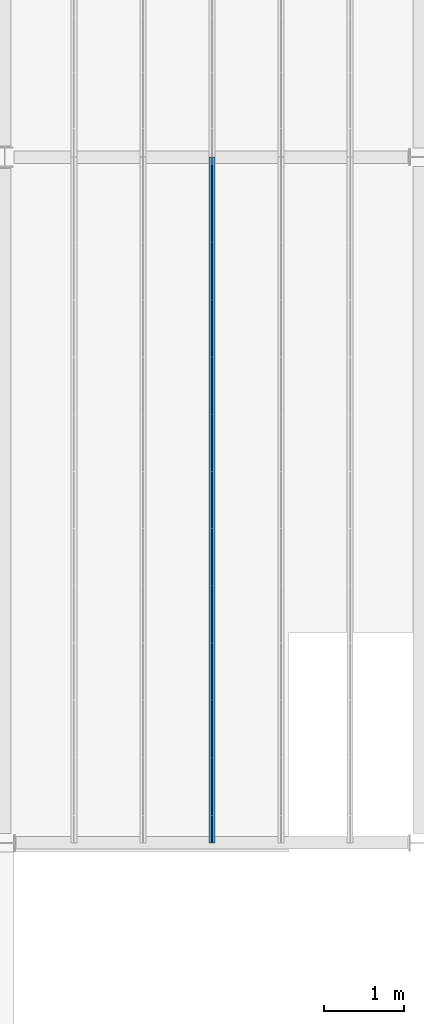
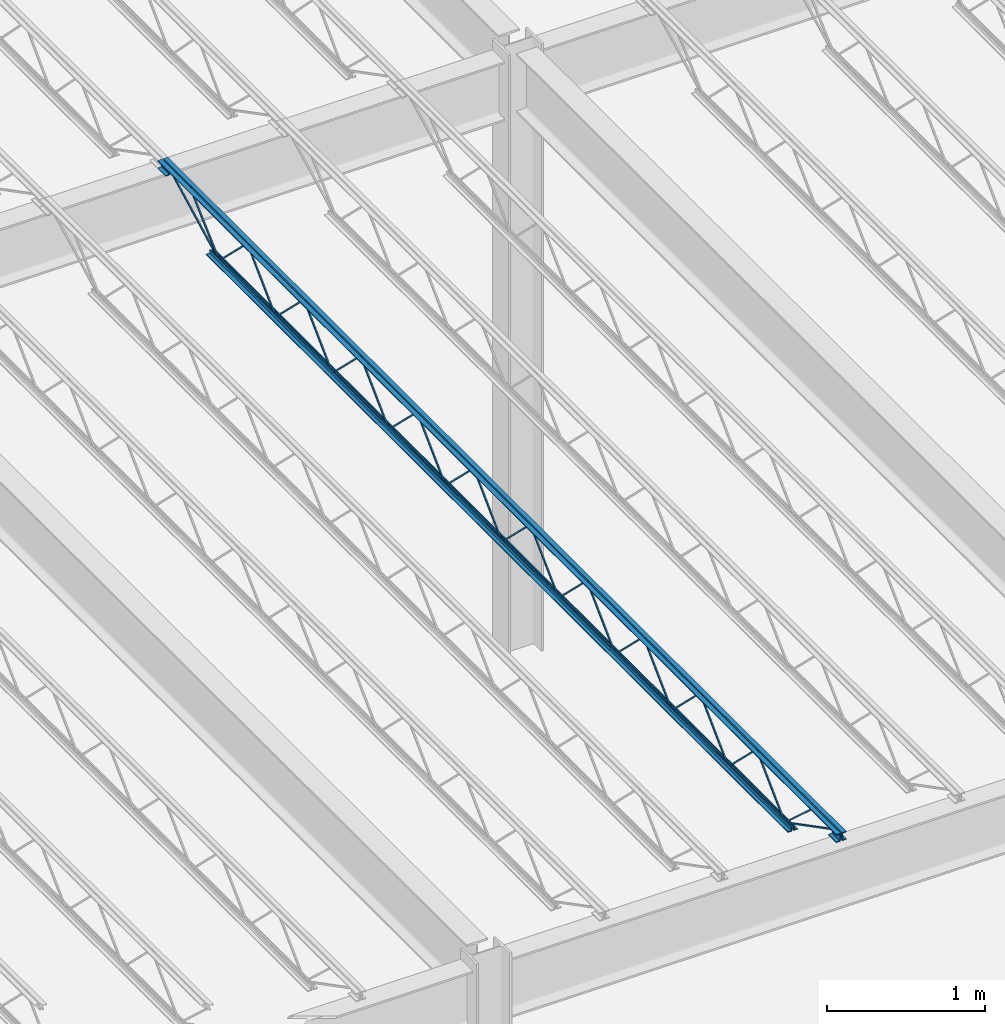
# One storey, part 48 of 119: 1 beam.
"""IFC2X3 building model written with IfcOpenShell, lengths in metres."""

import ifcopenshell
import ifcopenshell.guid

model = None  # the IFC model being written
_history = None  # IfcOwnerHistory: only IFC2X3 demands one
_inside = {}  # id of a spatial element -> (the spatial element, [elements in it])
_under = {}  # id of a project, library or spatial element -> (it, [spatial elements below it])
_declared = {}  # id of a project -> (the project, [libraries it declares])
_typed = {}  # id of a type object -> (the type object, [elements of that type])
_made_of = {}  # id of a material, layer set ... -> (it, [elements and type objects made of it])


def new_model(schema):
    """Start an empty IFC model of exactly this schema.

    Asked for "IFC4X3", IfcOpenShell would pick the latest addendum, in which some entities
    have other attributes; the version numbers below select the first issue.
    IFC2X3 requires an IfcOwnerHistory on every rooted entity: one is made here for all.
    """
    global model, _history
    if schema == "IFC4X3":
        model = ifcopenshell.file(schema_version=(4, 3, 0, 0))
    else:
        model = ifcopenshell.file(schema=schema)
    _inside.clear()
    _under.clear()
    _declared.clear()
    _typed.clear()
    _made_of.clear()
    _history = None
    if model.schema == "IFC2X3":
        org = make("IfcOrganization", Name="unknown")
        user = make(
            "IfcPersonAndOrganization",
            ThePerson=make("IfcPerson", FamilyName="unknown"),
            TheOrganization=org,
        )
        app = make(
            "IfcApplication",
            ApplicationDeveloper=org,
            Version="unknown",
            ApplicationFullName="unknown",
            ApplicationIdentifier="unknown",
        )
        _history = make(
            "IfcOwnerHistory",
            OwningUser=user,
            OwningApplication=app,
            ChangeAction="ADDED",
            CreationDate=0,
        )
    return model


def make(cls, **values):
    """One entity of the class cls with the attributes given. An attribute that is None is left unset."""
    return model.create_entity(
        cls, **{name: value for name, value in values.items() if value is not None}
    )


def entity(cls, *values):
    """Any entity or typed value of the class cls, its attributes in the order of the schema. None: left unset."""
    e = model.create_entity(cls)
    for i, value in enumerate(values):
        if value is not None:
            e[i] = value
    return e


def rooted(cls, **values):
    """An entity with a GlobalId (a new one), such as an element, a storey or a relation."""
    return make(cls, GlobalId=ifcopenshell.guid.new(), OwnerHistory=_history, **values)


def si_unit(unit_type, name, prefix=None):
    """IfcSIUnit, for example si_unit("LENGTHUNIT", "METRE", prefix="MILLI")."""
    return make("IfcSIUnit", UnitType=unit_type, Prefix=prefix, Name=name)


def converted_unit(unit_type, name, factor, base, dimensions=None, offset=None):
    """IfcConversionBasedUnit, such as the inch: factor (a typed value) times the base unit."""
    return make(
        "IfcConversionBasedUnit"
        if offset is None
        else "IfcConversionBasedUnitWithOffset",
        ConversionOffset=offset,
        Dimensions=None
        if dimensions is None
        else entity("IfcDimensionalExponents", *dimensions),
        UnitType=unit_type,
        Name=name,
        ConversionFactor=make(
            "IfcMeasureWithUnit", ValueComponent=factor, UnitComponent=base
        ),
    )


def assignment(units):
    """IfcUnitAssignment: the units of a project."""
    return None if units is None else make("IfcUnitAssignment", Units=units)


def point(xyz):
    """IfcCartesianPoint."""
    return None if xyz is None else make("IfcCartesianPoint", Coordinates=xyz)


def direction(xyz):
    """IfcDirection."""
    return None if xyz is None else make("IfcDirection", DirectionRatios=xyz)


def frame(location, z_axis=None, x_axis=None):
    """IfcAxis2Placement3D, a coordinate frame: its origin and axes. An axis left out is left unset."""
    return make(
        "IfcAxis2Placement3D",
        Location=point(location),
        Axis=direction(z_axis),
        RefDirection=direction(x_axis),
    )


def origin():
    """The frame at (0, 0, 0) with its axes left unset."""
    return frame((0.0, 0.0, 0.0))


def place(relative_to, where):
    """IfcLocalPlacement: puts the frame where relative to a parent placement (None: the world)."""
    return make(
        "IfcLocalPlacement", PlacementRelTo=relative_to, RelativePlacement=where
    )


def context(
    kind, dimensions, precision=None, world=None, true_north=None, identifier=None
):
    """IfcGeometricRepresentationContext, for example the 3D "Model" context."""
    return make(
        "IfcGeometricRepresentationContext",
        ContextIdentifier=identifier,
        ContextType=kind,
        CoordinateSpaceDimension=dimensions,
        Precision=precision,
        WorldCoordinateSystem=world,
        TrueNorth=true_north,
    )


def project(units=None, contexts=None):
    """IfcProject with its units and contexts."""
    return rooted(
        "IfcProject",
        Name="project",
        RepresentationContexts=contexts,
        UnitsInContext=assignment(units),
    )


def spatial(cls, under=None, at=None, **own):
    """A site, building, storey or space (cls), placed at a placement, below another one or the project."""
    s = rooted(cls, ObjectPlacement=at, **own)
    if under is not None:
        _under.setdefault(under.id(), (under, []))[1].append(s)
    return s


def faces_of(points, faces, orient=None, outer=None):
    """IfcFace entities. A face is a list of loops; a loop is a list of indices into points, from 0.

    orient and outer hold one flag for each loop. By default every Orientation is true, the
    first loop of a face is its IfcFaceOuterBound and the others are IfcFaceBound.
    """
    made = []
    for i, loops in enumerate(faces):
        bounds = []
        for j, loop in enumerate(loops):
            is_outer = j == 0 if outer is None else outer[i][j]
            bounds.append(
                make(
                    "IfcFaceOuterBound" if is_outer else "IfcFaceBound",
                    Bound=make("IfcPolyLoop", Polygon=[points[k] for k in loop]),
                    Orientation=True if orient is None else orient[i][j],
                )
            )
        made.append(make("IfcFace", Bounds=bounds))
    return made


def face_set(faces, orient=None, outer=None):
    """The faces of one IfcConnectedFaceSet. surface_model builds it on its shared points."""
    return ("IfcConnectedFaceSet", faces, orient, outer)


def surface_model(cls, points, shells):
    """IfcFaceBasedSurfaceModel or IfcShellBasedSurfaceModel (cls): surfaces that need not close."""
    shared = [point(p) for p in points]
    made = [make(c, CfsFaces=faces_of(shared, fs, o, b)) for c, fs, o, b in shells]
    if cls == "IfcFaceBasedSurfaceModel":
        return make(cls, FbsmFaces=made)
    return make(cls, SbsmBoundary=made)


def shape(context_of_items, identifier, shape_type, items):
    """IfcShapeRepresentation: the items that make up one representation, for example the "Body"."""
    return make(
        "IfcShapeRepresentation",
        ContextOfItems=context_of_items,
        RepresentationIdentifier=identifier,
        RepresentationType=shape_type,
        Items=items,
    )


def made_of(thing, what):
    """Note that an element or type object is made of a material, layer set ...; save() writes the relation."""
    if what is not None:
        _made_of.setdefault(what.id(), (what, []))[1].append(thing)
    return thing


def element(
    cls,
    number,
    at=None,
    inside=None,
    cuts=None,
    type_object=None,
    material=None,
    context=None,
    identifier="Body",
    shape_type=None,
    held_by="IfcProductDefinitionShape",
    body=None,
    shapes=None,
    **own,
):
    """One element of the class cls, such as IfcWall. Its Tag is "e" and its number.

    at: its placement. inside: the storey or other place that contains it. cuts: it is an
    opening in that element (IfcRelVoidsElement). A single representation is given by context,
    identifier, shape_type and body (its items); several are given by shapes. held_by: the class
    of the entity that holds the representations. save() writes the other relations.
    """
    e = rooted(cls, Tag="e%d" % number, ObjectPlacement=at, **own)
    if body is not None:
        shapes = [shape(context, identifier, shape_type, body)]
    if shapes is not None:
        e.Representation = make(held_by, Representations=shapes)
    if inside is not None:
        _inside.setdefault(inside.id(), (inside, []))[1].append(e)
    if cuts is not None:
        rooted(
            "IfcRelVoidsElement", RelatingBuildingElement=cuts, RelatedOpeningElement=e
        )
    if type_object is not None:
        _typed.setdefault(type_object.id(), (type_object, []))[1].append(e)
    return made_of(e, material)


def aggregate(whole, parts):
    """IfcRelAggregates: a whole, such as a stair, and the parts it consists of."""
    return rooted("IfcRelAggregates", RelatingObject=whole, RelatedObjects=parts)


def save(model, path):
    """Write the relations noted so far, then the file.

    IfcRelAggregates (storeys below a building ...), IfcRelContainedInSpatialStructure (elements
    in a storey), IfcRelDefinesByType, IfcRelAssociatesMaterial and IfcRelDeclares: one each for
    every whole, place, type object, material and project.
    """
    for whole, parts in _under.values():
        aggregate(whole, parts)
    for where, things in _inside.values():
        rooted(
            "IfcRelContainedInSpatialStructure",
            RelatedElements=things,
            RelatingStructure=where,
        )
    for kind, things in _typed.values():
        rooted("IfcRelDefinesByType", RelatedObjects=things, RelatingType=kind)
    for what, things in _made_of.values():
        rooted("IfcRelAssociatesMaterial", RelatedObjects=things, RelatingMaterial=what)
    for by, libraries in _declared.values():
        rooted("IfcRelDeclares", RelatingContext=by, RelatedDefinitions=libraries)
    model.write(path)


model = new_model("IFC2X3")

# Units and contexts
model_context = context("Model", 3, precision=1e-09, world=origin())
plan_context = context("Plan", 3, precision=1e-09, world=origin())
ifc_project = project(units=[si_unit("LENGTHUNIT", "METRE"), si_unit("AREAUNIT", "SQUARE_METRE"), si_unit("VOLUMEUNIT", "CUBIC_METRE"), converted_unit("PLANEANGLEUNIT", "DEGREE", entity("IfcRatioMeasure", 0.01745329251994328), si_unit("PLANEANGLEUNIT", "RADIAN"), dimensions=[0, 0, 0, 0, 0, 0, 0]), si_unit("TIMEUNIT", "SECOND")], contexts=[model_context, plan_context])

# Site, building, storey
site_placement = place(None, origin())
site = spatial("IfcSite", under=ifc_project, at=site_placement, Name="Default", CompositionType="ELEMENT")
building_placement = place(site_placement, origin())
building = spatial("IfcBuilding", under=site, at=building_placement, CompositionType="ELEMENT")
storey_placement = place(building_placement, frame((0.0, 0.0, 4.570000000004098)))
storey = spatial("IfcBuildingStorey", under=building, at=storey_placement, Name="Second Floor", CompositionType="ELEMENT", Elevation=4.570000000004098)

# Beam
beam_placement = place(storey_placement, frame((-17.50673750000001, 10.03999999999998, 4.323999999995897)))
element("IfcBeam", 1, at=beam_placement, inside=storey, Name="M_K-Series Bar Joist-Rod Web:14K1:14K1", ObjectType="M_K-Series Bar Joist-Rod Web:14K1", context=model_context, shape_type="SurfaceModel", body=[
    surface_model("IfcFaceBasedSurfaceModel", [(0.04150000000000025, 6.428799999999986, 0.01110000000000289), (0.03200000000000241, 6.428799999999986, 0.01110000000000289), (0.03200000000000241, 6.428799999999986, 0.001600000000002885), (0.04150000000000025, 6.428799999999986, 0.001600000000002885), (0.03200000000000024, 6.430038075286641, 0.01110000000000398), (0.04150000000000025, 6.430038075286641, 0.01110000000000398), (0.0320000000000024, 6.433911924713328, 0.001600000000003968), (0.03200000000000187, 6.784861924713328, 0.3449000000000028), (0.03200000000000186, 6.78733807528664, 0.3449000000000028), (0.03200000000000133, 7.138288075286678, 0.001600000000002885), (0.03200000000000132, 7.143399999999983, 0.001600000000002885), (0.03200000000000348, 7.143399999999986, 0.01110000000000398), (0.03200000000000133, 7.142161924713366, 0.01110000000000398), (0.03200000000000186, 6.79121192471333, 0.3544000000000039), (0.03200000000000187, 6.780988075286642, 0.3544000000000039), (0.0415000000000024, 6.433911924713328, 0.001600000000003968), (0.0414999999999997, 6.784861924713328, 0.3449000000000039), (0.0414999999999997, 6.787338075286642, 0.3449000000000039), (0.04149999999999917, 7.138288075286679, 0.001600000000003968), (0.04149999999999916, 7.143399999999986, 0.001600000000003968), (0.04149999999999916, 7.143399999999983, 0.01110000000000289), (0.04149999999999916, 7.142161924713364, 0.01110000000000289), (0.0414999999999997, 6.791211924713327, 0.3544000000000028), (0.04149999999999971, 6.780988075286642, 0.3544000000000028), (0.04149999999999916, 5.714199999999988, 0.01110000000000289), (0.03200000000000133, 5.714199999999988, 0.01110000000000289), (0.03200000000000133, 5.714199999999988, 0.001600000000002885), (0.04149999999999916, 5.714199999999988, 0.001600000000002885), (0.03199999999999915, 5.715438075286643, 0.01110000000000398), (0.04149999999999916, 5.715438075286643, 0.01110000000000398), (0.03200000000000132, 5.71931192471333, 0.001600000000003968), (0.03200000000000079, 6.07026192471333, 0.3449000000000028), (0.03200000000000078, 6.072738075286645, 0.3449000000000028), (0.03200000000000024, 6.423688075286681, 0.001600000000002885), (0.03200000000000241, 6.428799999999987, 0.001600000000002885), (0.03200000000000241, 6.428799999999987, 0.01110000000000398), (0.03200000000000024, 6.427561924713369, 0.01110000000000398), (0.03200000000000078, 6.076611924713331, 0.3544000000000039), (0.03200000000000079, 6.066388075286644, 0.3544000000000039), (0.04150000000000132, 5.71931192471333, 0.001600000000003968), (0.04149999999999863, 6.07026192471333, 0.3449000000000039), (0.04149999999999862, 6.072738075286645, 0.3449000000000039), (0.04149999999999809, 6.423688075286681, 0.001600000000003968), (0.04149999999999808, 6.428799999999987, 0.001600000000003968), (0.04150000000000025, 6.428799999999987, 0.01110000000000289), (0.04150000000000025, 6.427561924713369, 0.01110000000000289), (0.04149999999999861, 6.076611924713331, 0.3544000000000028), (0.04149999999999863, 6.066388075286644, 0.3544000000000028), (0.04150000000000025, 4.999599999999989, 0.01110000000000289), (0.03200000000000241, 4.999599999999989, 0.01110000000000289), (0.03200000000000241, 4.999599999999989, 0.001600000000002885), (0.04150000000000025, 4.999599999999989, 0.001600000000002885), (0.03200000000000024, 5.000838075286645, 0.01110000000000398), (0.04150000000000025, 5.000838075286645, 0.01110000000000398), (0.0320000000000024, 5.004711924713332, 0.001600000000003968), (0.03200000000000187, 5.355661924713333, 0.3449000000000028), (0.03200000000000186, 5.358138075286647, 0.3449000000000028), (0.03200000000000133, 5.709088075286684, 0.001600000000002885), (0.03200000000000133, 5.714199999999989, 0.001600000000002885), (0.03200000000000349, 5.714199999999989, 0.01110000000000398), (0.03200000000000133, 5.712961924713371, 0.01110000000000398), (0.03200000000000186, 5.362011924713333, 0.3544000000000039), (0.03200000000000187, 5.351788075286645, 0.3544000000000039), (0.04150000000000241, 5.004711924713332, 0.001600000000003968), (0.04149999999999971, 5.355661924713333, 0.3449000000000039), (0.0414999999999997, 5.358138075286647, 0.3449000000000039), (0.04149999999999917, 5.709088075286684, 0.001600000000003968), (0.04149999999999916, 5.714199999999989, 0.001600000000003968), (0.04149999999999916, 5.714199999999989, 0.01110000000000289), (0.04149999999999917, 5.712961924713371, 0.01110000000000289), (0.0414999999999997, 5.362011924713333, 0.3544000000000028), (0.04149999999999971, 5.351788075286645, 0.3544000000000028), (0.04149999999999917, 4.284999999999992, 0.01110000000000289), (0.03200000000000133, 4.284999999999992, 0.01110000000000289), (0.03200000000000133, 4.284999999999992, 0.001600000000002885), (0.04149999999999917, 4.284999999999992, 0.001600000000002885), (0.03199999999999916, 4.286238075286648, 0.01110000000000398), (0.04149999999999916, 4.286238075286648, 0.01110000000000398), (0.03200000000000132, 4.290111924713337, 0.001600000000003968), (0.03200000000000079, 4.641061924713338, 0.3449000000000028), (0.03200000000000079, 4.643538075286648, 0.3449000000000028), (0.03200000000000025, 4.994488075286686, 0.001600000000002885), (0.03200000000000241, 4.999599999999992, 0.001600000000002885), (0.03200000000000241, 4.999599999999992, 0.01110000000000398), (0.03200000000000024, 4.998361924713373, 0.01110000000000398), (0.03200000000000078, 4.647411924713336, 0.3544000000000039), (0.03200000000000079, 4.637188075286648, 0.3544000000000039), (0.04150000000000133, 4.290111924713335, 0.001600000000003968), (0.04149999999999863, 4.641061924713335, 0.3449000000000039), (0.04149999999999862, 4.643538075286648, 0.3449000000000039), (0.04149999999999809, 4.994488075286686, 0.001600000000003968), (0.04149999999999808, 4.999599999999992, 0.001600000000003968), (0.04150000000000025, 4.999599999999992, 0.01110000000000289), (0.04149999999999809, 4.998361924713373, 0.01110000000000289), (0.04149999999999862, 4.647411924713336, 0.3544000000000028), (0.04149999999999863, 4.637188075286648, 0.3544000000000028), (0.04149999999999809, 3.570399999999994, 0.01110000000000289), (0.03200000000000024, 3.570399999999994, 0.01110000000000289), (0.03200000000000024, 3.570399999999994, 0.001600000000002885), (0.04149999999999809, 3.570399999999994, 0.001600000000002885), (0.03199999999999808, 3.57163807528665, 0.01110000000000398), (0.04149999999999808, 3.57163807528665, 0.01110000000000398), (0.0320000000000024, 3.575511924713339, 0.001600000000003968), (0.03200000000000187, 3.926461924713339, 0.3449000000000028), (0.03200000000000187, 3.928938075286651, 0.3449000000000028), (0.03200000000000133, 4.279888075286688, 0.001600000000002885), (0.03200000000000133, 4.284999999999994, 0.001600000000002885), (0.03200000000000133, 4.284999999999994, 0.01110000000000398), (0.03199999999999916, 4.283761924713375, 0.01110000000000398), (0.0319999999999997, 3.932811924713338, 0.3544000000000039), (0.03199999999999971, 3.92258807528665, 0.3544000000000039), (0.04150000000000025, 3.575511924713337, 0.001600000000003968), (0.04149999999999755, 3.926461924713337, 0.3449000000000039), (0.04149999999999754, 3.928938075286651, 0.3449000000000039), (0.04149999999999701, 4.279888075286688, 0.001600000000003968), (0.04149999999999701, 4.284999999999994, 0.001600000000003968), (0.04149999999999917, 4.284999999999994, 0.01110000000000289), (0.04149999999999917, 4.283761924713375, 0.01110000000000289), (0.0414999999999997, 3.93281192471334, 0.3544000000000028), (0.04149999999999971, 3.922588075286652, 0.3544000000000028), (0.04149999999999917, 2.855799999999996, 0.01110000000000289), (0.03200000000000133, 2.855799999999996, 0.01110000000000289), (0.03200000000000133, 2.855799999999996, 0.001600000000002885), (0.04149999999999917, 2.855799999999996, 0.001600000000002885), (0.03199999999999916, 2.857038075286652, 0.01110000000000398), (0.04149999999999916, 2.857038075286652, 0.01110000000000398), (0.03200000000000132, 2.860911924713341, 0.001600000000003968), (0.03200000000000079, 3.211861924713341, 0.3449000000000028), (0.03200000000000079, 3.214338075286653, 0.3449000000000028), (0.03200000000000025, 3.56528807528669, 0.001600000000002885), (0.03200000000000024, 3.570399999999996, 0.001600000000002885), (0.03200000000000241, 3.570399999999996, 0.01110000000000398), (0.03200000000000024, 3.569161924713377, 0.01110000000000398), (0.03200000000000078, 3.21821192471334, 0.3544000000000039), (0.03200000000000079, 3.207988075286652, 0.3544000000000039), (0.04150000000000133, 2.860911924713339, 0.001600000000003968), (0.04149999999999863, 3.21186192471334, 0.3449000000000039), (0.04149999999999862, 3.214338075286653, 0.3449000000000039), (0.04149999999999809, 3.56528807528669, 0.001600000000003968), (0.04149999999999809, 3.570399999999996, 0.001600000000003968), (0.04149999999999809, 3.570399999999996, 0.01110000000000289), (0.04149999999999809, 3.569161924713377, 0.01110000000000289), (0.04149999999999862, 3.218211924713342, 0.3544000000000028), (0.04149999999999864, 3.207988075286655, 0.3544000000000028), (0.04149999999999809, 2.1412, 0.01110000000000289), (0.03200000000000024, 2.1412, 0.01110000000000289), (0.03200000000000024, 2.1412, 0.001600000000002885), (0.04149999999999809, 2.1412, 0.001600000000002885), (0.03199999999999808, 2.142438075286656, 0.01110000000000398), (0.04149999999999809, 2.142438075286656, 0.01110000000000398), (0.0320000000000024, 2.146311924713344, 0.001600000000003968), (0.03200000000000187, 2.497261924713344, 0.3449000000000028), (0.03200000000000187, 2.499738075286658, 0.3449000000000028), (0.03200000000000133, 2.850688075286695, 0.001600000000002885), (0.03200000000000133, 2.8558, 0.001600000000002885), (0.03200000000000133, 2.8558, 0.01110000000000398), (0.03199999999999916, 2.854561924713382, 0.01110000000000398), (0.0319999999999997, 2.503611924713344, 0.3544000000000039), (0.03199999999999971, 2.493388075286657, 0.3544000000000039), (0.04150000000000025, 2.146311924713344, 0.001600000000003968), (0.04149999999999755, 2.497261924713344, 0.3449000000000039), (0.04149999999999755, 2.499738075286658, 0.3449000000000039), (0.04149999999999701, 2.850688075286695, 0.001600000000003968), (0.04149999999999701, 2.8558, 0.001600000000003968), (0.04149999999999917, 2.8558, 0.01110000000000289), (0.04149999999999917, 2.854561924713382, 0.01110000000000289), (0.0414999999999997, 2.503611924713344, 0.3544000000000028), (0.04149999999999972, 2.493388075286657, 0.3544000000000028), (0.04149999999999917, 1.426600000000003, 0.01110000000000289), (0.03200000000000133, 1.426600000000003, 0.01110000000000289), (0.03200000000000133, 1.426600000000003, 0.001600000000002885), (0.04149999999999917, 1.426600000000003, 0.001600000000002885), (0.03199999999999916, 1.427838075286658, 0.01110000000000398), (0.04149999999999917, 1.427838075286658, 0.01110000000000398), (0.03200000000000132, 1.431711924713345, 0.001600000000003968), (0.03200000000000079, 1.782661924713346, 0.3449000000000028), (0.03200000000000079, 1.78513807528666, 0.3449000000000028), (0.03200000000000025, 2.136088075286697, 0.001600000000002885), (0.03200000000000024, 2.141200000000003, 0.001600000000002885), (0.03200000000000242, 2.141200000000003, 0.01110000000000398), (0.03200000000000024, 2.139961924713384, 0.01110000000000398), (0.03200000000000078, 1.789011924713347, 0.3544000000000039), (0.03200000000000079, 1.778788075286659, 0.3544000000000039), (0.04150000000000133, 1.431711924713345, 0.001600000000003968), (0.04149999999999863, 1.782661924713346, 0.3449000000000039), (0.04149999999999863, 1.78513807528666, 0.3449000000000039), (0.04149999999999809, 2.136088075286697, 0.001600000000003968), (0.04149999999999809, 2.141200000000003, 0.001600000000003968), (0.04149999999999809, 2.141200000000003, 0.01110000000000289), (0.04149999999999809, 2.139961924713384, 0.01110000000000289), (0.04149999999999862, 1.789011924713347, 0.3544000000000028), (0.04149999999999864, 1.778788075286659, 0.3544000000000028), (0.04150000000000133, 7.143399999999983, 0.01109999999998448), (0.03200000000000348, 7.143399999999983, 0.01109999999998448), (0.03200000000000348, 7.143399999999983, 0.001599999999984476), (0.04150000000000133, 7.143399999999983, 0.001599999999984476), (0.03200000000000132, 7.144638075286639, 0.01109999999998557), (0.04150000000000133, 7.144638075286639, 0.01109999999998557), (0.03200000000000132, 7.148511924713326, 0.001599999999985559), (0.03200000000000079, 7.499461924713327, 0.3448999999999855), (0.03200000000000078, 7.501938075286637, 0.3448999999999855), (0.03200000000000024, 7.852888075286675, 0.001599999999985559), (0.03200000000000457, 7.857999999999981, 0.001599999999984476), (0.0320000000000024, 7.857999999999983, 0.01109999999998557), (0.03200000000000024, 7.856761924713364, 0.01109999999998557), (0.03200000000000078, 7.505811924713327, 0.3543999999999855), (0.03200000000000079, 7.495588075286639, 0.3543999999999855), (0.04150000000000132, 7.148511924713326, 0.001599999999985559), (0.04150000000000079, 7.499461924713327, 0.3448999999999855), (0.04150000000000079, 7.50193807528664, 0.3448999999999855), (0.04150000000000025, 7.852888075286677, 0.001599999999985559), (0.04150000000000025, 7.857999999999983, 0.001599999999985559), (0.04150000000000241, 7.857999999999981, 0.01109999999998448), (0.04150000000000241, 7.856761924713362, 0.01109999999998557), (0.04150000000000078, 7.505811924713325, 0.3543999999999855), (0.04150000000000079, 7.495588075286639, 0.3543999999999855), (0.04149999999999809, 0.712000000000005, 0.01110000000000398), (0.03200000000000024, 0.712000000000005, 0.01110000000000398), (0.03200000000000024, 0.712000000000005, 0.001600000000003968), (0.04149999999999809, 0.712000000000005, 0.001600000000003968), (0.03199999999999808, 0.7132380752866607, 0.01110000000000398), (0.04149999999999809, 0.7132380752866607, 0.01110000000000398), (0.0320000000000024, 0.7171119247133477, 0.001600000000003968), (0.03200000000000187, 1.068061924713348, 0.3449000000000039), (0.03200000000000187, 1.070538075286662, 0.3449000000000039), (0.03200000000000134, 1.421488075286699, 0.001600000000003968), (0.03200000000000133, 1.426600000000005, 0.001600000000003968), (0.03200000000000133, 1.426600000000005, 0.01110000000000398), (0.03199999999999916, 1.425361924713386, 0.01110000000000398), (0.0319999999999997, 1.074411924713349, 0.3544000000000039), (0.03199999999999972, 1.064188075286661, 0.3544000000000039), (0.04150000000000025, 0.7171119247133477, 0.001600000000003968), (0.04149999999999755, 1.068061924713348, 0.3449000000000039), (0.04149999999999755, 1.070538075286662, 0.3449000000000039), (0.04149999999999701, 1.421488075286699, 0.001600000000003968), (0.04149999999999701, 1.426600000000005, 0.001600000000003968), (0.04149999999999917, 1.426600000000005, 0.01110000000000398), (0.04149999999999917, 1.425361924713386, 0.01110000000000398), (0.0414999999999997, 1.074411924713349, 0.3544000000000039), (0.04149999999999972, 1.064188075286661, 0.3544000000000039), (0.03199999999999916, 8.57, 0.3559999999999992), (0.0, 8.57, 0.3559999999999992), (0.0, 8.57, 0.3494999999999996), (0.02549999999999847, 8.57, 0.3494999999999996), (0.02549999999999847, 8.57, 0.3239999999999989), (0.03199999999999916, 8.57, 0.3239999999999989), (0.04149999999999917, 8.57, 0.3559999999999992), (0.04149999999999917, 8.57, 0.3239999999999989), (0.04799999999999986, 8.57, 0.3239999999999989), (0.04799999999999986, 8.57, 0.3494999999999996), (0.07349999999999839, 8.57, 0.3494999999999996), (0.07349999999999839, 8.57, 0.3559999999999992), (0.03199999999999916, 0.0, 0.3559999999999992), (0.0, 0.0, 0.3559999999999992), (0.0, 0.0, 0.3494999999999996), (0.02549999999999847, 0.0, 0.3494999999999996), (0.02549999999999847, 0.0, 0.3239999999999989), (0.03199999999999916, 0.0, 0.3239999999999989), (0.04149999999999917, 0.0, 0.3559999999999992), (0.04149999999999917, 0.0, 0.3239999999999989), (0.04799999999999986, 0.0, 0.3239999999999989), (0.04799999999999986, 0.0, 0.3494999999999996), (0.07349999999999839, 0.0, 0.3494999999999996), (0.07349999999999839, 0.0, 0.3559999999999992), (0.04149999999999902, 0.09999999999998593, 0.2924999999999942), (0.07349999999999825, 0.09999999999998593, 0.2924999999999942), (0.07349999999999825, 0.09999999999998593, 0.2989999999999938), (0.0479999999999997, 0.09999999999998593, 0.2989999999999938), (0.0479999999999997, 0.09999999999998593, 0.3239999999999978), (0.04149999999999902, 0.09999999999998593, 0.3239999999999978), (0.0, 0.09999999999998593, 0.2924999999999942), (0.03199999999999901, 0.09999999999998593, 0.2924999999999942), (0.03199999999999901, 0.09999999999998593, 0.3239999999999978), (0.02549999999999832, 0.09999999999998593, 0.3239999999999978), (0.02549999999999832, 0.09999999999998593, 0.2989999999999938), (0.0, 0.09999999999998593, 0.2989999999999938), (0.04149999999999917, 0.0, 0.2924999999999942), (0.07349999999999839, 0.0, 0.2924999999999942), (0.07349999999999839, 0.0, 0.2989999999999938), (0.04799999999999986, 0.0, 0.2989999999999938), (0.04799999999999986, 0.0, 0.3239999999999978), (0.04149999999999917, 0.0, 0.3239999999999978), (0.0, 0.0, 0.2924999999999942), (0.03199999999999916, 0.0, 0.2924999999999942), (0.03199999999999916, 0.0, 0.3239999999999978), (0.02549999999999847, 0.0, 0.3239999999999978), (0.02549999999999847, 0.0, 0.2989999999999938), (0.0, 0.0, 0.2989999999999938), (0.03199999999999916, 8.57, 0.2924999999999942), (0.03199999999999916, 8.57, 0.3239999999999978), (0.02550000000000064, 8.57, 0.3239999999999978), (0.02550000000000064, 8.57, 0.2989999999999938), (0.0, 8.57, 0.2989999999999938), (0.0, 8.57, 0.2924999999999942), (0.04149999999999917, 8.57, 0.2924999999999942), (0.07350000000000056, 8.57, 0.2924999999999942), (0.07350000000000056, 8.57, 0.2989999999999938), (0.04799999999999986, 8.57, 0.2989999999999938), (0.04799999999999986, 8.57, 0.3239999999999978), (0.04149999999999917, 8.57, 0.3239999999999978), (0.03199999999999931, 8.47, 0.2924999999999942), (0.03199999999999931, 8.47, 0.3239999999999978), (0.02550000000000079, 8.47, 0.3239999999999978), (0.02550000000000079, 8.47, 0.2989999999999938), (0.0, 8.47, 0.2989999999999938), (0.0, 8.47, 0.2924999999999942), (0.04149999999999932, 8.47, 0.2924999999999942), (0.0735000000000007, 8.47, 0.2924999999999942), (0.0735000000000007, 8.47, 0.2989999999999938), (0.048, 8.47, 0.2989999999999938), (0.048, 8.47, 0.3239999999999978), (0.04149999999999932, 8.47, 0.3239999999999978), (0.03200000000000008, 7.958000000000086, 0.0), (0.03200000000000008, 7.958000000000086, 0.03199999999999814), (0.0254999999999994, 7.958000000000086, 0.03199999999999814), (0.0254999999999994, 7.958000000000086, 0.006499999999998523), (0.0, 7.958000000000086, 0.006499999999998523), (0.0, 7.958000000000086, 0.0), (0.04150000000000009, 7.958000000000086, 0.0), (0.07349999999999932, 7.958000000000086, 0.0), (0.07349999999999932, 7.958000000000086, 0.006499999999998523), (0.04800000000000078, 7.958000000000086, 0.006499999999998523), (0.04800000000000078, 7.958000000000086, 0.03199999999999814), (0.04150000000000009, 7.958000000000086, 0.03199999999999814), (0.03199999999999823, 0.6120000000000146, 0.0), (0.03199999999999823, 0.6120000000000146, 0.03199999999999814), (0.02549999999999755, 0.6120000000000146, 0.03199999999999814), (0.02549999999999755, 0.6120000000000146, 0.006499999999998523), (0.0, 0.6120000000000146, 0.006499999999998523), (0.0, 0.6120000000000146, 0.0), (0.04149999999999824, 0.6120000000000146, 0.0), (0.07349999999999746, 0.6120000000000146, 0.0), (0.07349999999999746, 0.6120000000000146, 0.006499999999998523), (0.04799999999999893, 0.6120000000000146, 0.006499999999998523), (0.04799999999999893, 0.6120000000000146, 0.03199999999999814), (0.04149999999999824, 0.6120000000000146, 0.03199999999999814), (0.04150000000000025, 0.7141882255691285, 0.01056594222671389), (0.03200000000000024, 0.7141882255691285, 0.01056594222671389), (0.03200000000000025, 0.7098117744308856, 0.002134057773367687), (0.04149999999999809, 0.7098117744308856, 0.00213405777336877), (0.04150000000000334, 0.1011592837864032, 0.3287499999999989), (0.0415000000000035, 0.0, 0.3287499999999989), (0.04150000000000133, 0.0, 0.3192499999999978), (0.04150000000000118, 0.09884071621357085, 0.3192499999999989), (0.03200000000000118, 0.09884071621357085, 0.3192499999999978), (0.03200000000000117, 0.1011592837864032, 0.3287499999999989), (0.03200000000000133, 0.0, 0.3287499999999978), (0.03200000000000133, 0.0, 0.3192499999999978), (0.04149999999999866, 0.3347428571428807, 0.3417000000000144), (0.03200000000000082, 0.3347428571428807, 0.3417000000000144), (0.03200000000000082, 0.3347428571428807, 0.3322000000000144), (0.04149999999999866, 0.3347428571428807, 0.3322000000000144), (0.03199999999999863, 0.349275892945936, 0.3417000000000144), (0.04149999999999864, 0.349275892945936, 0.3417000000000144), (0.0320000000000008, 0.3456098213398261, 0.3322000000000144), (0.03200000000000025, 0.7088091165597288, 0.002831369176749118), (0.03200000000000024, 0.7151908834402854, 0.009868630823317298), (0.04150000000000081, 0.3456098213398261, 0.3322000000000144), (0.04149999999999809, 0.7088091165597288, 0.002831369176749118), (0.04150000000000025, 0.7151908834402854, 0.009868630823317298), (0.04150000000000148, 8.472188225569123, 0.3197840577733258), (0.04149999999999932, 8.467811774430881, 0.328215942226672), (0.03199999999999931, 8.467811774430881, 0.328215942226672), (0.03200000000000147, 8.472188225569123, 0.3197840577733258), (0.04150000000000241, 7.860188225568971, 0.002134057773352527), (0.04150000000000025, 7.855811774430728, 0.01056594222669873), (0.03200000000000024, 7.855811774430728, 0.01056594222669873), (0.0320000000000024, 7.860188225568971, 0.002134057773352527), (0.04150000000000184, 8.233036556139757, 0.3461600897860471), (0.04149999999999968, 8.22659201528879, 0.3531399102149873), (0.03199999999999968, 8.22659201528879, 0.3531399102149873), (0.03200000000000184, 8.233036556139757, 0.3461600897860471), (0.04150000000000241, 7.861222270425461, 0.00286008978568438), (0.04150000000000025, 7.854777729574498, 0.009839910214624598), (0.03200000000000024, 7.854777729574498, 0.009839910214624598), (0.0320000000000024, 7.861222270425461, 0.00286008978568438)], [face_set([[[0, 1, 2, 3]], [[1, 4, 5, 0]], [[2, 6, 7, 8, 9, 10, 11, 12, 13, 14, 4, 1]], [[3, 2, 6, 15]], [[0, 3, 15, 16, 17, 18, 19, 20, 21, 22, 23, 5]], [[4, 5, 23, 14]], [[15, 16, 7, 6]], [[14, 13, 22, 23]], [[16, 7, 8, 17]], [[13, 12, 21, 22]], [[17, 8, 9, 18]], [[20, 11, 10, 19]], [[12, 11, 20, 21]], [[18, 9, 10, 19]]]), face_set([[[24, 25, 26, 27]], [[25, 28, 29, 24]], [[26, 30, 31, 32, 33, 34, 35, 36, 37, 38, 28, 25]], [[27, 26, 30, 39]], [[24, 27, 39, 40, 41, 42, 43, 44, 45, 46, 47, 29]], [[28, 29, 47, 38]], [[39, 40, 31, 30]], [[38, 37, 46, 47]], [[40, 31, 32, 41]], [[37, 36, 45, 46]], [[41, 32, 33, 42]], [[44, 35, 34, 43]], [[36, 35, 44, 45]], [[42, 33, 34, 43]]]), face_set([[[48, 49, 50, 51]], [[49, 52, 53, 48]], [[50, 54, 55, 56, 57, 58, 59, 60, 61, 62, 52, 49]], [[51, 50, 54, 63]], [[48, 51, 63, 64, 65, 66, 67, 68, 69, 70, 71, 53]], [[52, 53, 71, 62]], [[63, 64, 55, 54]], [[62, 61, 70, 71]], [[64, 55, 56, 65]], [[61, 60, 69, 70]], [[65, 56, 57, 66]], [[68, 59, 58, 67]], [[60, 59, 68, 69]], [[66, 57, 58, 67]]]), face_set([[[72, 73, 74, 75]], [[73, 76, 77, 72]], [[74, 78, 79, 80, 81, 82, 83, 84, 85, 86, 76, 73]], [[75, 74, 78, 87]], [[72, 75, 87, 88, 89, 90, 91, 92, 93, 94, 95, 77]], [[76, 77, 95, 86]], [[87, 88, 79, 78]], [[86, 85, 94, 95]], [[88, 79, 80, 89]], [[85, 84, 93, 94]], [[89, 80, 81, 90]], [[92, 83, 82, 91]], [[84, 83, 92, 93]], [[90, 81, 82, 91]]]), face_set([[[96, 97, 98, 99]], [[97, 100, 101, 96]], [[98, 102, 103, 104, 105, 106, 107, 108, 109, 110, 100, 97]], [[99, 98, 102, 111]], [[96, 99, 111, 112, 113, 114, 115, 116, 117, 118, 119, 101]], [[100, 101, 119, 110]], [[111, 112, 103, 102]], [[110, 109, 118, 119]], [[112, 103, 104, 113]], [[109, 108, 117, 118]], [[113, 104, 105, 114]], [[116, 107, 106, 115]], [[108, 107, 116, 117]], [[114, 105, 106, 115]]]), face_set([[[120, 121, 122, 123]], [[121, 124, 125, 120]], [[122, 126, 127, 128, 129, 130, 131, 132, 133, 134, 124, 121]], [[123, 122, 126, 135]], [[120, 123, 135, 136, 137, 138, 139, 140, 141, 142, 143, 125]], [[124, 125, 143, 134]], [[135, 136, 127, 126]], [[134, 133, 142, 143]], [[136, 127, 128, 137]], [[133, 132, 141, 142]], [[137, 128, 129, 138]], [[140, 131, 130, 139]], [[132, 131, 140, 141]], [[138, 129, 130, 139]]]), face_set([[[144, 145, 146, 147]], [[145, 148, 149, 144]], [[146, 150, 151, 152, 153, 154, 155, 156, 157, 158, 148, 145]], [[147, 146, 150, 159]], [[144, 147, 159, 160, 161, 162, 163, 164, 165, 166, 167, 149]], [[148, 149, 167, 158]], [[159, 160, 151, 150]], [[158, 157, 166, 167]], [[160, 151, 152, 161]], [[157, 156, 165, 166]], [[161, 152, 153, 162]], [[164, 155, 154, 163]], [[156, 155, 164, 165]], [[162, 153, 154, 163]]]), face_set([[[168, 169, 170, 171]], [[169, 172, 173, 168]], [[170, 174, 175, 176, 177, 178, 179, 180, 181, 182, 172, 169]], [[171, 170, 174, 183]], [[168, 171, 183, 184, 185, 186, 187, 188, 189, 190, 191, 173]], [[172, 173, 191, 182]], [[183, 184, 175, 174]], [[182, 181, 190, 191]], [[184, 175, 176, 185]], [[181, 180, 189, 190]], [[185, 176, 177, 186]], [[188, 179, 178, 187]], [[180, 179, 188, 189]], [[186, 177, 178, 187]]]), face_set([[[192, 193, 194, 195]], [[193, 196, 197, 192]], [[194, 198, 199, 200, 201, 202, 203, 204, 205, 206, 196, 193]], [[195, 194, 198, 207]], [[192, 195, 207, 208, 209, 210, 211, 212, 213, 214, 215, 197]], [[196, 197, 215, 206]], [[207, 208, 199, 198]], [[206, 205, 214, 215]], [[208, 199, 200, 209]], [[205, 204, 213, 214]], [[209, 200, 201, 210]], [[212, 203, 202, 211]], [[204, 203, 212, 213]], [[210, 201, 202, 211]]]), face_set([[[216, 217, 218, 219]], [[217, 220, 221, 216]], [[218, 222, 223, 224, 225, 226, 227, 228, 229, 230, 220, 217]], [[219, 218, 222, 231]], [[216, 219, 231, 232, 233, 234, 235, 236, 237, 238, 239, 221]], [[220, 221, 239, 230]], [[231, 232, 223, 222]], [[230, 229, 238, 239]], [[232, 223, 224, 233]], [[229, 228, 237, 238]], [[233, 224, 225, 234]], [[236, 227, 226, 235]], [[228, 227, 236, 237]], [[234, 225, 226, 235]]]), face_set([[[240, 241, 242, 243, 244, 245]], [[246, 247, 248, 249, 250, 251]], [[252, 253, 254, 255, 256, 257]], [[258, 259, 260, 261, 262, 263]], [[245, 240, 252, 257]], [[244, 245, 257, 256]], [[243, 255, 256, 244]], [[242, 243, 255, 254]], [[241, 253, 254, 242]], [[240, 252, 253, 241]], [[251, 263, 258, 246]], [[250, 251, 263, 262]], [[249, 250, 262, 261]], [[248, 249, 261, 260]], [[247, 248, 260, 259]], [[246, 258, 259, 247]]]), face_set([[[264, 265, 266, 267, 268, 269]], [[270, 271, 272, 273, 274, 275]], [[276, 277, 278, 279, 280, 281]], [[282, 283, 284, 285, 286, 287]], [[269, 281, 276, 264]], [[268, 280, 281, 269]], [[267, 268, 280, 279]], [[266, 278, 279, 267]], [[265, 266, 278, 277]], [[264, 265, 277, 276]], [[275, 287, 282, 270]], [[274, 286, 287, 275]], [[273, 285, 286, 274]], [[272, 284, 285, 273]], [[271, 272, 284, 283]], [[270, 271, 283, 282]]]), face_set([[[288, 289, 290, 291, 292, 293]], [[294, 295, 296, 297, 298, 299]], [[300, 301, 302, 303, 304, 305]], [[306, 307, 308, 309, 310, 311]], [[293, 288, 300, 305]], [[292, 304, 305, 293]], [[291, 303, 304, 292]], [[290, 302, 303, 291]], [[289, 301, 302, 290]], [[288, 289, 301, 300]], [[299, 311, 306, 294]], [[298, 310, 311, 299]], [[297, 298, 310, 309]], [[296, 308, 309, 297]], [[295, 296, 308, 307]], [[294, 295, 307, 306]]]), face_set([[[312, 313, 314, 315, 316, 317]], [[318, 319, 320, 321, 322, 323]], [[324, 325, 326, 327, 328, 329]], [[330, 331, 332, 333, 334, 335]], [[317, 312, 324, 329]], [[316, 328, 329, 317]], [[315, 327, 328, 316]], [[314, 326, 327, 315]], [[313, 325, 326, 314]], [[312, 313, 325, 324]], [[323, 335, 330, 318]], [[322, 334, 335, 323]], [[321, 322, 334, 333]], [[320, 332, 333, 321]], [[319, 320, 332, 331]], [[318, 319, 331, 330]]]), face_set([[[336, 337, 338, 339]], [[339, 336, 340, 341, 342, 343]], [[338, 339, 343, 344]], [[337, 345, 346, 347, 344, 338]], [[336, 340, 345, 337]], [[341, 346, 347, 342]], [[344, 343, 342, 347]], [[340, 341, 346, 345]]]), face_set([[[348, 349, 350, 351]], [[349, 352, 353, 348]], [[350, 354, 355, 356, 352, 349]], [[351, 350, 354, 357]], [[348, 351, 357, 358, 359, 353]], [[359, 356, 355, 358]], [[352, 356, 359, 353]], [[357, 354, 355, 358]]]), face_set([[[360, 361, 362, 363]], [[364, 365, 366, 367]], [[363, 360, 364, 367]], [[362, 366, 367, 363]], [[361, 365, 366, 362]], [[360, 361, 365, 364]]]), face_set([[[368, 369, 370, 371]], [[372, 373, 374, 375]], [[371, 375, 372, 368]], [[370, 374, 375, 371]], [[369, 370, 374, 373]], [[368, 369, 373, 372]]])]),
])

save(model, "model.ifc")
